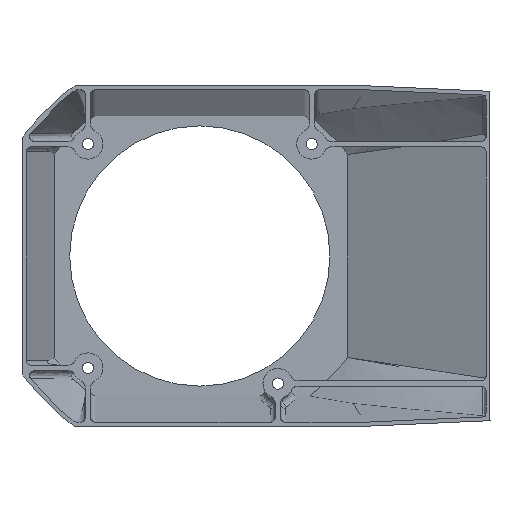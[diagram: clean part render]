
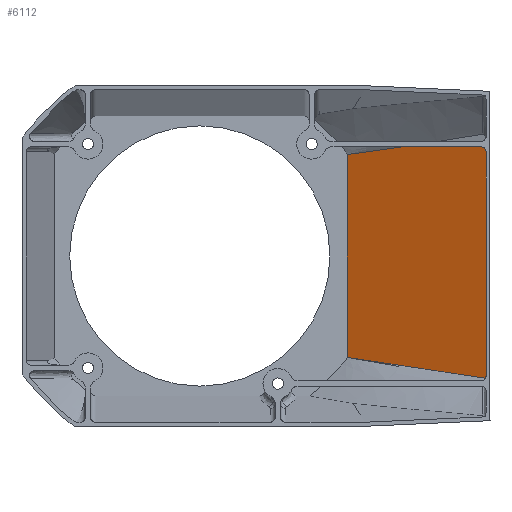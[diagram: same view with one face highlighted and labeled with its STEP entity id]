
A CAD part, left-side view. The second image highlights one B-rep face of the part: STEP entity #6112.
In plain terms, the highlighted planar face has unit normal (-0.909, 0.417, 0).
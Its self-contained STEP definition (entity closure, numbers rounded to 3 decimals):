
#1613=DIRECTION('',(0.417,0.909,0.));
#1614=VECTOR('',#1613,32.764);
#1615=CARTESIAN_POINT('',(109.955,238.5,42.));
#1616=LINE('',#1615,#1614);
#1634=DIRECTION('',(0.,0.,1.));
#1635=VECTOR('',#1634,77.964);
#1636=CARTESIAN_POINT('',(133.5,289.828,-38.982));
#1637=LINE('',#1636,#1635);
#1638=CARTESIAN_POINT('',(133.5,289.827,38.982));
#1639=CARTESIAN_POINT('',(133.47,289.763,38.985));
#1640=CARTESIAN_POINT('',(133.408,289.627,38.995));
#1641=CARTESIAN_POINT('',(133.305,289.403,39.003));
#1642=CARTESIAN_POINT('',(133.194,289.16,39.018));
#1643=CARTESIAN_POINT('',(133.073,288.897,39.037));
#1644=CARTESIAN_POINT('',(132.943,288.613,39.061));
#1645=CARTESIAN_POINT('',(132.804,288.31,39.09));
#1646=CARTESIAN_POINT('',(132.654,287.983,39.124));
#1647=CARTESIAN_POINT('',(132.492,287.631,39.165));
#1648=CARTESIAN_POINT('',(132.318,287.252,39.211));
#1649=CARTESIAN_POINT('',(132.131,286.843,39.264));
#1650=CARTESIAN_POINT('',(131.929,286.402,39.321));
#1651=CARTESIAN_POINT('',(131.71,285.925,39.383));
#1652=CARTESIAN_POINT('',(131.473,285.408,39.452));
#1653=CARTESIAN_POINT('',(131.216,284.848,39.527));
#1654=CARTESIAN_POINT('',(130.938,284.242,39.61));
#1655=CARTESIAN_POINT('',(130.637,283.586,39.702));
#1656=CARTESIAN_POINT('',(130.312,282.878,39.804));
#1657=CARTESIAN_POINT('',(129.961,282.112,39.914));
#1658=CARTESIAN_POINT('',(129.582,281.286,40.035));
#1659=CARTESIAN_POINT('',(129.172,280.393,40.167));
#1660=CARTESIAN_POINT('',(128.729,279.427,40.31));
#1661=CARTESIAN_POINT('',(128.25,278.384,40.466));
#1662=CARTESIAN_POINT('',(127.734,277.258,40.634));
#1663=CARTESIAN_POINT('',(127.175,276.04,40.818));
#1664=CARTESIAN_POINT('',(126.571,274.722,41.017));
#1665=CARTESIAN_POINT('',(125.918,273.299,41.233));
#1666=CARTESIAN_POINT('',(125.213,271.761,41.467));
#1667=CARTESIAN_POINT('',(124.451,270.1,41.721));
#1668=CARTESIAN_POINT('',(123.901,268.902,41.905));
#1669=CARTESIAN_POINT('',(123.616,268.281,42.));
#1712=CARTESIAN_POINT('',(133.5,289.828,-38.982));
#1713=CARTESIAN_POINT('',(133.442,289.7,-38.984));
#1714=CARTESIAN_POINT('',(133.319,289.433,-38.997));
#1715=CARTESIAN_POINT('',(133.12,288.999,-39.026));
#1716=CARTESIAN_POINT('',(132.903,288.527,-39.07));
#1717=CARTESIAN_POINT('',(132.668,288.013,-39.125));
#1718=CARTESIAN_POINT('',(132.412,287.456,-39.188));
#1719=CARTESIAN_POINT('',(132.135,286.852,-39.261));
#1720=CARTESIAN_POINT('',(131.835,286.198,-39.344));
#1721=CARTESIAN_POINT('',(131.511,285.491,-39.438));
#1722=CARTESIAN_POINT('',(131.161,284.728,-39.543));
#1723=CARTESIAN_POINT('',(130.781,283.901,-39.658));
#1724=CARTESIAN_POINT('',(130.37,283.003,-39.786));
#1725=CARTESIAN_POINT('',(129.923,282.029,-39.927));
#1726=CARTESIAN_POINT('',(129.439,280.975,-40.081));
#1727=CARTESIAN_POINT('',(128.916,279.835,-40.249));
#1728=CARTESIAN_POINT('',(128.35,278.601,-40.433));
#1729=CARTESIAN_POINT('',(127.736,277.263,-40.633));
#1730=CARTESIAN_POINT('',(127.072,275.814,-40.852));
#1731=CARTESIAN_POINT('',(126.352,274.245,-41.089));
#1732=CARTESIAN_POINT('',(125.574,272.549,-41.347));
#1733=CARTESIAN_POINT('',(124.733,270.715,-41.627));
#1734=CARTESIAN_POINT('',(123.821,268.726,-41.932));
#1735=CARTESIAN_POINT('',(122.832,266.572,-42.262));
#1736=CARTESIAN_POINT('',(121.764,264.242,-42.621));
#1737=CARTESIAN_POINT('',(120.606,261.719,-43.011));
#1738=CARTESIAN_POINT('',(119.351,258.984,-43.435));
#1739=CARTESIAN_POINT('',(117.992,256.02,-43.896));
#1740=CARTESIAN_POINT('',(116.518,252.807,-44.398));
#1741=CARTESIAN_POINT('',(114.916,249.315,-44.946));
#1742=CARTESIAN_POINT('',(113.175,245.519,-45.546));
#1743=CARTESIAN_POINT('',(111.277,241.381,-46.21));
#1744=CARTESIAN_POINT('',(109.882,238.341,-46.71));
#1745=CARTESIAN_POINT('',(109.155,236.755,-46.977));
#1900=CARTESIAN_POINT('',(109.155,236.755,-46.977));
#1901=CARTESIAN_POINT('',(109.129,236.698,-46.875));
#1902=CARTESIAN_POINT('',(109.086,236.604,-46.666));
#1903=CARTESIAN_POINT('',(109.047,236.52,-46.341));
#1904=CARTESIAN_POINT('',(109.038,236.5,-46.115));
#1905=CARTESIAN_POINT('',(109.038,236.5,-46.));
#1915=DIRECTION('',(0.,0.,1.));
#1916=VECTOR('',#1915,86.);
#1917=CARTESIAN_POINT('',(109.038,236.5,-46.));
#1918=LINE('',#1917,#1916);
#1919=CARTESIAN_POINT('',(109.038,236.5,40.));
#1920=CARTESIAN_POINT('',(109.038,236.5,40.35));
#1921=CARTESIAN_POINT('',(109.109,236.656,40.879));
#1922=CARTESIAN_POINT('',(109.303,237.078,41.465));
#1923=CARTESIAN_POINT('',(109.574,237.668,41.865));
#1924=CARTESIAN_POINT('',(109.809,238.182,42.));
#1925=CARTESIAN_POINT('',(109.955,238.5,42.));
#1935=CARTESIAN_POINT('',(133.5,289.827,38.982));
#3278=VERTEX_POINT('',#1935);
#3279=CARTESIAN_POINT('',(133.5,289.828,-38.982));
#3280=VERTEX_POINT('',#3279);
#3299=CARTESIAN_POINT('',(109.955,238.5,42.));
#3300=CARTESIAN_POINT('',(123.616,268.281,42.));
#3301=VERTEX_POINT('',#3299);
#3302=VERTEX_POINT('',#3300);
#3303=VERTEX_POINT('',#1745);
#3304=VERTEX_POINT('',#1919);
#3305=CARTESIAN_POINT('',(109.038,236.5,-46.));
#3306=VERTEX_POINT('',#3305);
#6093=CARTESIAN_POINT('',(121.137,262.875,-1146.359));
#6094=DIRECTION('',(-0.909,0.417,0.));
#6095=DIRECTION('',(0.417,0.909,0.));
#6096=AXIS2_PLACEMENT_3D('',#6093,#6094,#6095);
#6097=PLANE('',#6096);
#6099=ORIENTED_EDGE('',*,*,#6098,.F.);
#6100=ORIENTED_EDGE('',*,*,#5726,.T.);
#6102=ORIENTED_EDGE('',*,*,#6101,.T.);
#6103=ORIENTED_EDGE('',*,*,#6081,.F.);
#6105=ORIENTED_EDGE('',*,*,#6104,.F.);
#6107=ORIENTED_EDGE('',*,*,#6106,.F.);
#6109=ORIENTED_EDGE('',*,*,#6108,.F.);
#6110=EDGE_LOOP('',(#6099,#6100,#6102,#6103,#6105,#6107,#6109));
#6111=FACE_OUTER_BOUND('',#6110,.F.);
#6112=ADVANCED_FACE('',(#6111),#6097,.T.);
#1670=B_SPLINE_CURVE_WITH_KNOTS('',3,(#1638,#1639,#1640,#1641,#1642,#1643,#1644,
#1645,#1646,#1647,#1648,#1649,#1650,#1651,#1652,#1653,#1654,#1655,#1656,#1657,
#1658,#1659,#1660,#1661,#1662,#1663,#1664,#1665,#1666,#1667,#1668,#1669),
.UNSPECIFIED.,.F.,.F.,(4,1,1,1,1,1,1,1,1,1,1,1,1,1,1,1,1,1,1,1,1,1,1,1,1,1,1,1,
1,4),(0.,0.034,0.069,0.103,
0.138,0.172,0.207,0.241,
0.276,0.31,0.345,0.379,
0.414,0.448,0.483,0.517,
0.552,0.586,0.621,0.655,
0.69,0.724,0.759,0.793,
0.828,0.862,0.897,0.931,
0.966,1.),.UNSPECIFIED.);
#1746=B_SPLINE_CURVE_WITH_KNOTS('',3,(#1712,#1713,#1714,#1715,#1716,#1717,#1718,
#1719,#1720,#1721,#1722,#1723,#1724,#1725,#1726,#1727,#1728,#1729,#1730,#1731,
#1732,#1733,#1734,#1735,#1736,#1737,#1738,#1739,#1740,#1741,#1742,#1743,#1744,
#1745),.UNSPECIFIED.,.F.,.F.,(4,1,1,1,1,1,1,1,1,1,1,1,1,1,1,1,1,1,1,1,1,1,1,1,1,
1,1,1,1,1,1,4),(0.,0.032,0.065,0.097,
0.129,0.161,0.194,0.226,
0.258,0.29,0.323,0.355,
0.387,0.419,0.452,0.484,
0.516,0.548,0.581,0.613,
0.645,0.677,0.71,0.742,
0.774,0.806,0.839,0.871,
0.903,0.935,0.968,1.),.UNSPECIFIED.);
#1906=B_SPLINE_CURVE_WITH_KNOTS('',3,(#1900,#1901,#1902,#1903,#1904,#1905),
.UNSPECIFIED.,.F.,.F.,(4,1,1,4),(0.,0.333,0.667,1.),
.UNSPECIFIED.);
#1926=B_SPLINE_CURVE_WITH_KNOTS('',3,(#1919,#1920,#1921,#1922,#1923,#1924,
#1925),.UNSPECIFIED.,.F.,.F.,(4,1,1,1,4),(0.,0.25,0.5,0.75,1.),
.UNSPECIFIED.);
#5726=EDGE_CURVE('',#3280,#3278,#1637,.T.);
#6081=EDGE_CURVE('',#3301,#3302,#1616,.T.);
#6098=EDGE_CURVE('',#3280,#3303,#1746,.T.);
#6101=EDGE_CURVE('',#3278,#3302,#1670,.T.);
#6104=EDGE_CURVE('',#3304,#3301,#1926,.T.);
#6106=EDGE_CURVE('',#3306,#3304,#1918,.T.);
#6108=EDGE_CURVE('',#3303,#3306,#1906,.T.);
